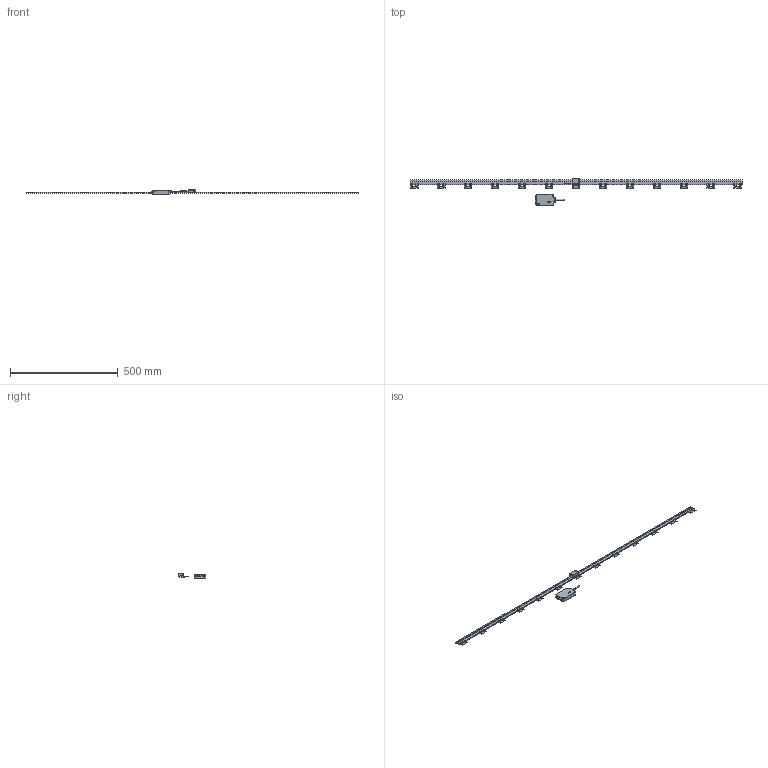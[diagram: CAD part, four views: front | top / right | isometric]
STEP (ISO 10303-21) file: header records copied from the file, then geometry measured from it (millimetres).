
FILE_DESCRIPTION(('Creo Elements/Direct Modeling STEP Export'),'2;1');
FILE_NAME('ST36-1500.stp','2018-03-23T14:45:43',(''),(''),'Creo Elements/Direct Modeling STEP processor for AP214 (Solid Model)','Creo Elements/Direct Modeling 18.1B 29-Sep-2012 (C) Parametric Technology GmbH','');
FILE_SCHEMA(('AUTOMOTIVE_DESIGN { 1 0 10303 214 1 1 1 1 }'));
Length unit declared in the file: millimetre
Products named in the file (4): DetectorHead; IFbox; Scale_1500; ST36-1500
Assembly tree (3 placements, depth 2):
  ST36-1500
    Scale_1500
    IFbox
    DetectorHead
Bounding box: 1540 x 123 x 19.9 mm (x, y, z)
Volume: 253051.4 mm3; surface area: 116629 mm2
Topology: 3 solids, 5 shells, 745 faces, 2065 edges, 1353 vertices
Faces by surface type: plane 443, cylinder 264, cone 28, torus 8, bspline 2
Entity records: 22904 total; most frequent: ORIENTED_EDGE 4130, CARTESIAN_POINT 3919, DIRECTION 3431, EDGE_CURVE 2065, VERTEX_POINT 1353, VECTOR 1279, LINE 1279, AXIS2_PLACEMENT_3D 1076
